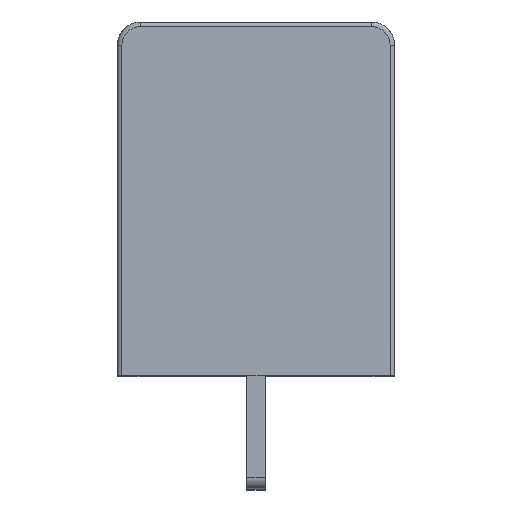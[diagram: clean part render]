
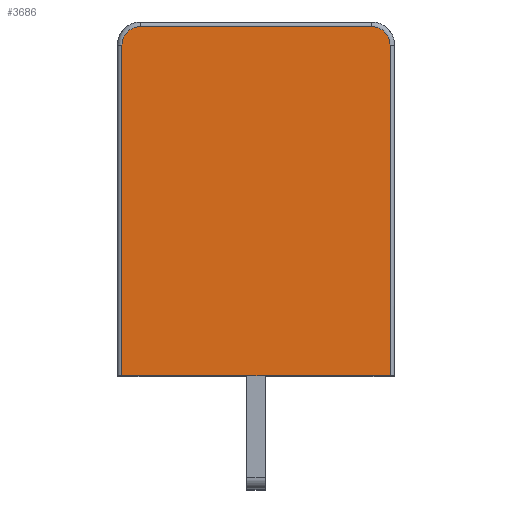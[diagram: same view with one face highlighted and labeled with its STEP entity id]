
A CAD part, top view. The second image highlights one B-rep face of the part: STEP entity #3686.
In plain terms, the highlighted planar face has unit normal (0, 0.009, 1).
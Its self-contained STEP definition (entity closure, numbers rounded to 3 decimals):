
#733 = LINE ( 'NONE', #63554, #63588 ) ;
#1508 = VERTEX_POINT ( 'NONE', #40867 ) ;
#3686 = ADVANCED_FACE ( 'NONE', ( #8893 ), #72826, .T. ) ;
#3816 = ORIENTED_EDGE ( 'NONE', *, *, #16793, .T. ) ;
#3902 = CARTESIAN_POINT ( 'NONE',  ( -59.745, 19.49, 55.338 ) ) ;
#7851 = CARTESIAN_POINT ( 'NONE',  ( -57.978, 26.692, 55.275 ) ) ;
#8858 = EDGE_CURVE ( 'NONE', #19543, #65059, #30110, .T. ) ;
#8893 = FACE_OUTER_BOUND ( 'NONE', #23797, .T. ) ;
#11086 = CARTESIAN_POINT ( 'NONE',  ( -57.978, 27.492, 55.269 ) ) ;
#11305 = DIRECTION ( 'NONE',  ( 0., 1., -0.009 ) ) ;
#14812 = CIRCLE ( 'NONE', #57609, 0.8 ) ;
#15068 = CIRCLE ( 'NONE', #73769, 0.8 ) ;
#15493 = CARTESIAN_POINT ( 'NONE',  ( -57.978, 27.492, 55.269 ) ) ;
#16793 = EDGE_CURVE ( 'NONE', #64636, #65059, #15068, .T. ) ;
#17042 = DIRECTION ( 'NONE',  ( 0., -0.009, -1. ) ) ;
#19543 = VERTEX_POINT ( 'NONE', #42202 ) ;
#19709 = DIRECTION ( 'NONE',  ( 0., 1., -0.009 ) ) ;
#23265 = VECTOR ( 'NONE', #58155, 1000. ) ;
#23797 = EDGE_LOOP ( 'NONE', ( #34609, #29070, #50547, #3816, #70788, #74750 ) ) ;
#24385 = CARTESIAN_POINT ( 'NONE',  ( -58.778, 12.39, 55.4 ) ) ;
#24994 = LINE ( 'NONE', #66362, #63125 ) ;
#26671 = VERTEX_POINT ( 'NONE', #40587 ) ;
#29070 = ORIENTED_EDGE ( 'NONE', *, *, #36847, .F. ) ;
#29077 = VECTOR ( 'NONE', #36233, 1000. ) ;
#30110 = LINE ( 'NONE', #24385, #29077 ) ;
#31174 = DIRECTION ( 'NONE',  ( 0., 0.009, 1. ) ) ;
#32206 = DIRECTION ( 'NONE',  ( 1., 0., 0. ) ) ;
#34609 = ORIENTED_EDGE ( 'NONE', *, *, #62706, .F. ) ;
#35420 = EDGE_CURVE ( 'NONE', #64636, #47551, #64280, .T. ) ;
#36222 = AXIS2_PLACEMENT_3D ( 'NONE', #3902, #44457, #32206 ) ;
#36233 = DIRECTION ( 'NONE',  ( 0., 1., -0.009 ) ) ;
#36847 = EDGE_CURVE ( 'NONE', #47551, #26671, #14812, .T. ) ;
#40587 = CARTESIAN_POINT ( 'NONE',  ( -47.178, 26.692, 55.275 ) ) ;
#40867 = CARTESIAN_POINT ( 'NONE',  ( -47.178, 12.39, 55.4 ) ) ;
#42202 = CARTESIAN_POINT ( 'NONE',  ( -58.778, 12.39, 55.4 ) ) ;
#43261 = CARTESIAN_POINT ( 'NONE',  ( -47.978, 27.492, 55.269 ) ) ;
#44457 = DIRECTION ( 'NONE',  ( 0., 0.009, 1. ) ) ;
#47551 = VERTEX_POINT ( 'NONE', #43261 ) ;
#50547 = ORIENTED_EDGE ( 'NONE', *, *, #35420, .F. ) ;
#52330 = DIRECTION ( 'NONE',  ( 1., 0., 0. ) ) ;
#57609 = AXIS2_PLACEMENT_3D ( 'NONE', #69492, #17042, #11305 ) ;
#58155 = DIRECTION ( 'NONE',  ( 1., 0., 0. ) ) ;
#60804 = CARTESIAN_POINT ( 'NONE',  ( -58.778, 26.692, 55.276 ) ) ;
#62706 = EDGE_CURVE ( 'NONE', #26671, #1508, #733, .T. ) ;
#63125 = VECTOR ( 'NONE', #52330, 1000. ) ;
#63554 = CARTESIAN_POINT ( 'NONE',  ( -47.178, 26.692, 55.276 ) ) ;
#63588 = VECTOR ( 'NONE', #65068, 1000. ) ;
#64280 = LINE ( 'NONE', #11086, #23265 ) ;
#64636 = VERTEX_POINT ( 'NONE', #15493 ) ;
#65059 = VERTEX_POINT ( 'NONE', #60804 ) ;
#65068 = DIRECTION ( 'NONE',  ( 0., -1., 0.009 ) ) ;
#66362 = CARTESIAN_POINT ( 'NONE',  ( -58.778, 12.39, 55.4 ) ) ;
#69492 = CARTESIAN_POINT ( 'NONE',  ( -47.978, 26.692, 55.275 ) ) ;
#70788 = ORIENTED_EDGE ( 'NONE', *, *, #8858, .F. ) ;
#72826 = PLANE ( 'NONE',  #36222 ) ;
#73769 = AXIS2_PLACEMENT_3D ( 'NONE', #7851, #31174, #19709 ) ;
#74750 = ORIENTED_EDGE ( 'NONE', *, *, #75086, .T. ) ;
#75086 = EDGE_CURVE ( 'NONE', #19543, #1508, #24994, .T. ) ;
